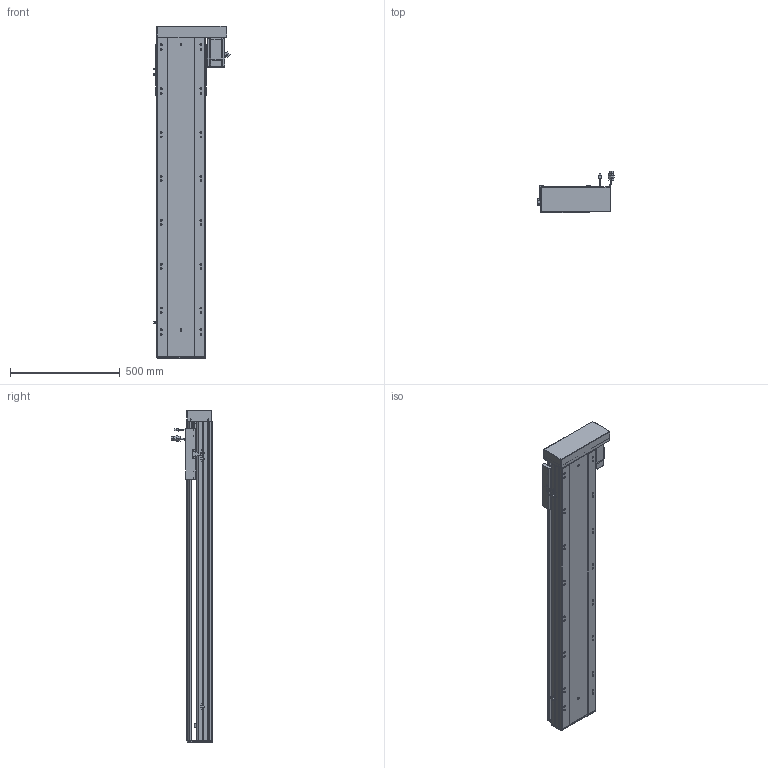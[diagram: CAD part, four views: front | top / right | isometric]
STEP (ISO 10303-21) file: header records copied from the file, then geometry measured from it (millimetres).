
FILE_DESCRIPTION (( 'STEP AP203' ), '1' );
FILE_NAME ('RY220-L2525-800-RK-邧嶺.SLDASM_1100.step', '2022-08-06T08:52:52', ( '' ), ( '' ), 'SwSTEP 2.0', 'SolidWorks 2016', '' );
FILE_SCHEMA (( 'CONFIG_CONTROL_DESIGN' ));
Length unit declared in the file: millimetre
Products named in the file (12): RY220-L2525-800-RK-邧嶺.SLDASM_1100; RY220-800-蛌殏奻裔啣_1100; RY220-俋离672覜茼んえ; 覜茼ん672; 怢湛750W_ECMA-CX0807ES; RY220綴裔啣; RY220蛌殏菁釱-800-邧嶺_1100; 滅袉蝶18-15; RY220左右折电机安装板; RY220酘衵殏萇儂欶; 滅袉蝶18-10; RY220半封闭25-32螺母铝滑块
Assembly tree (15 placements, depth 2):
  RY220-L2525-800-RK-邧嶺.SLDASM_1100
    RY220蛌殏菁釱-800-邧嶺_1100
    RY220-800-蛌殏奻裔啣_1100
    怢湛750W_ECMA-CX0807ES
    滅袉蝶18-10  x2
    RY220-俋离672覜茼んえ
    覜茼ん672  x3
    RY220綴裔啣
    RY220半封闭25-32螺母铝滑块
    滅袉蝶18-15  x2
    RY220左右折电机安装板
    RY220酘衵殏萇儂欶
Bounding box: 347.44 x 187.27 x 1514 mm (x, y, z)
Volume: 12382280.4 mm3; surface area: 3652912.5 mm2
Topology: 16 solids, 16 shells, 2205 faces, 6084 edges, 3841 vertices
Faces by surface type: cylinder 997, plane 904, cone 234, bspline 44, sphere 16, torus 10
Entity records: 72739 total; most frequent: CARTESIAN_POINT 21039, ORIENTED_EDGE 10728, DIRECTION 10108, EDGE_CURVE 5364, AXIS2_PLACEMENT_3D 3555, VERTEX_POINT 3497, LINE 2998, VECTOR 2998
